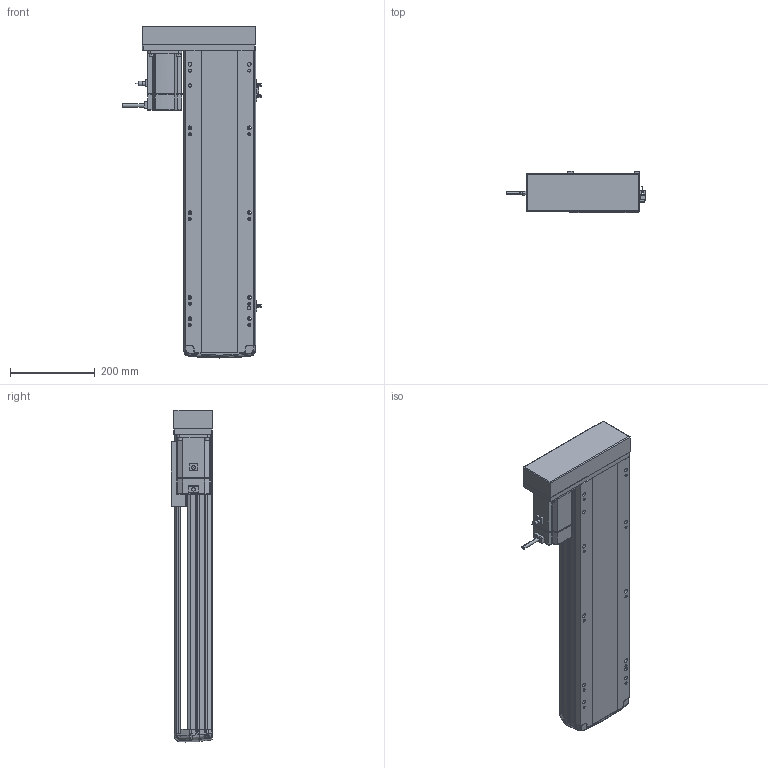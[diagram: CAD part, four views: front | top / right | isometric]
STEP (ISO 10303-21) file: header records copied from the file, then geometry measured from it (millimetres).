
FILE_DESCRIPTION (( 'STEP AP214' ), '1' );
FILE_NAME ('RTH17-XX-500-R-M75-C4.STEP', '2025-10-24T10:15:52', ( '' ), ( '' ), 'SwSTEP 2.0', 'SolidWorks 2018', '' );
FILE_SCHEMA (( 'AUTOMOTIVE_DESIGN' ));
Length unit declared in the file: millimetre
Products named in the file (10): N_RTH17-GY-001P^RTH17-XX-XX-R-M75-C4（方程式）; N_RTH17-L-018盖子^RTH17-XX-XX-R-M75-C4（方程式）; N_RTH17-M-007上盖^RTH17-XX-XX-R-M75-C4（方程式）; N_RTH17-L-008-P75电机安装板左转折^RTH17-XX-XX-R-M75-C4（方程式）; N_RTH17-E-004丝杆螺母连接座^RTH17-XX-XX-R-M75-C4（方程式）; N_M75^RTH17-XX-XX-R-M75-C4（方程式）; N_RTH-L-012 感应片(外置)^RTH17-XX-XX-R-M75-C4（方程式）; N_OMRON EE-SX672 換覜ん^RTH17-XX-XX-R-M75-C4ㄗ源最宒ㄘ; RTH17-XX-500-R-M75-C4; N_RTH17-M-011底座^RTH17-XX-XX-R-M75-C4（方程式）
Assembly tree (11 placements, depth 2):
  RTH17-XX-500-R-M75-C4
    N_RTH17-M-011底座^RTH17-XX-XX-R-M75-C4（方程式）
    N_RTH17-M-007上盖^RTH17-XX-XX-R-M75-C4（方程式）
    N_M75^RTH17-XX-XX-R-M75-C4（方程式）
    N_OMRON EE-SX672 換覜ん^RTH17-XX-XX-R-M75-C4ㄗ源最宒ㄘ  x3
    N_RTH-L-012 感应片(外置)^RTH17-XX-XX-R-M75-C4（方程式）
    N_RTH17-L-008-P75电机安装板左转折^RTH17-XX-XX-R-M75-C4（方程式）
    N_RTH17-L-018盖子^RTH17-XX-XX-R-M75-C4（方程式）
    N_RTH17-E-004丝杆螺母连接座^RTH17-XX-XX-R-M75-C4（方程式）
    N_RTH17-GY-001P^RTH17-XX-XX-R-M75-C4（方程式）
Bounding box: 326.2 x 97 x 783.07 mm (x, y, z)
Volume: 7789591.3 mm3; surface area: 980440.1 mm2
Topology: 13 solids, 15 shells, 1741 faces, 4781 edges, 3094 vertices
Faces by surface type: plane 831, cylinder 496, bspline 377, cone 28, torus 9
Entity records: 50545 total; most frequent: CARTESIAN_POINT 20241, ORIENTED_EDGE 6586, DIRECTION 5473, EDGE_CURVE 3297, VERTEX_POINT 2130, AXIS2_PLACEMENT_3D 1837, LINE 1799, VECTOR 1799
